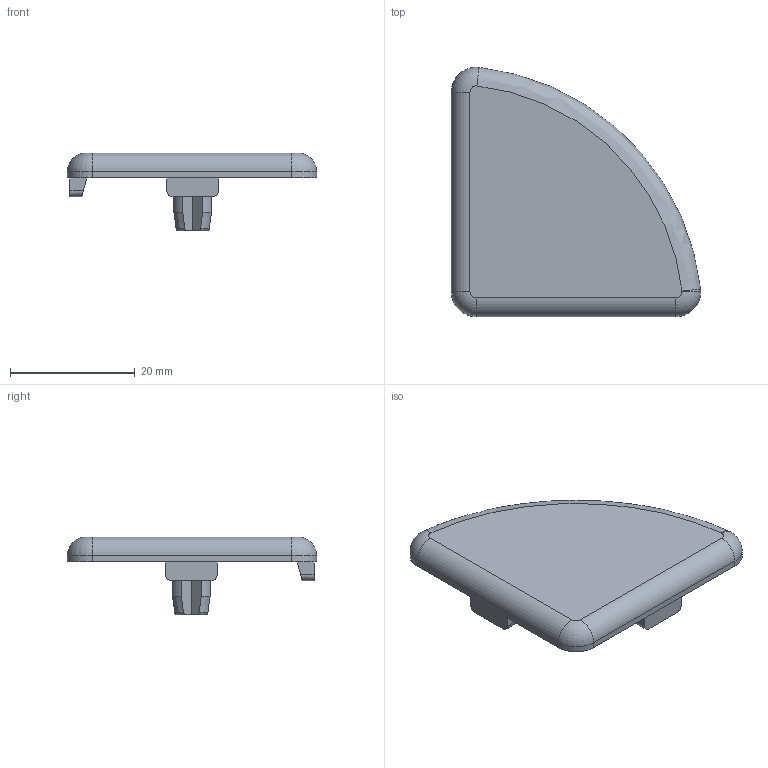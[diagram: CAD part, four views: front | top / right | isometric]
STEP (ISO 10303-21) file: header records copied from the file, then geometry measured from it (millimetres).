
FILE_DESCRIPTION (( 'STEP AP203' ), '1' );
FILE_NAME ('0108AKR40-90.STEP', '2024-03-07T13:43:42', ( 'Windows-Benutzer' ), ( '' ), 'SwSTEP 2.0', 'SolidWorks 2023', '' );
FILE_SCHEMA (( 'CONFIG_CONTROL_DESIGN' ));
Length unit declared in the file: millimetre
Products named in the file (1): 0108AKR40-90
Bounding box: 40.03 x 40.02 x 12.5 mm (x, y, z)
Volume: 4231.6 mm3; surface area: 3361.8 mm2
Topology: 1 solids, 1 shells, 57 faces, 148 edges, 95 vertices
Faces by surface type: plane 28, cylinder 16, bspline 5, torus 4, cone 4
Entity records: 1948 total; most frequent: CARTESIAN_POINT 517, ORIENTED_EDGE 296, DIRECTION 268, EDGE_CURVE 148, VERTEX_POINT 95, AXIS2_PLACEMENT_3D 92, VECTOR 84, LINE 84
